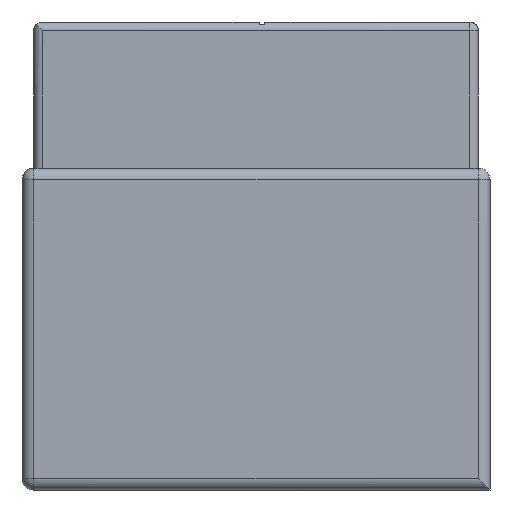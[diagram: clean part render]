
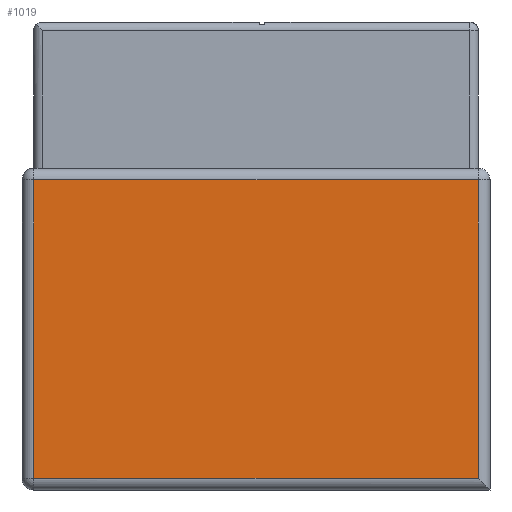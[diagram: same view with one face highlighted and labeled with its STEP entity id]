
A CAD part, front view. The second image highlights one B-rep face of the part: STEP entity #1019.
In plain terms, the highlighted planar face has unit normal (0, -1, 0).
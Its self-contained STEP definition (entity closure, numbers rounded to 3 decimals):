
#14 = VERTEX_POINT ( 'NONE', #266 ) ;
#90 = EDGE_LOOP ( 'NONE', ( #144, #1595, #788, #984 ) ) ;
#120 = DIRECTION ( 'NONE',  ( 0., 1., 0. ) ) ;
#144 = ORIENTED_EDGE ( 'NONE', *, *, #1076, .T. ) ;
#198 = CARTESIAN_POINT ( 'NONE',  ( -3.8, -11.5, 0.2 ) ) ;
#266 = CARTESIAN_POINT ( 'NONE',  ( -3.8, -11.5, 5.3 ) ) ;
#289 = CARTESIAN_POINT ( 'NONE',  ( -3.8, -11.5, 5.5 ) ) ;
#312 = FACE_OUTER_BOUND ( 'NONE', #90, .T. ) ;
#342 = EDGE_CURVE ( 'NONE', #473, #390, #958, .T. ) ;
#387 = EDGE_CURVE ( 'NONE', #390, #14, #1247, .T. ) ;
#390 = VERTEX_POINT ( 'NONE', #1669 ) ;
#429 = DIRECTION ( 'NONE',  ( 1., 0., 0. ) ) ;
#473 = VERTEX_POINT ( 'NONE', #1664 ) ;
#624 = VECTOR ( 'NONE', #1305, 1000. ) ;
#684 = PLANE ( 'NONE',  #1790 ) ;
#692 = VECTOR ( 'NONE', #1380, 1000. ) ;
#767 = VERTEX_POINT ( 'NONE', #198 ) ;
#774 = DIRECTION ( 'NONE',  ( -1., 0., 0. ) ) ;
#788 = ORIENTED_EDGE ( 'NONE', *, *, #342, .T. ) ;
#842 = VECTOR ( 'NONE', #774, 1000. ) ;
#958 = LINE ( 'NONE', #1523, #692 ) ;
#966 = CARTESIAN_POINT ( 'NONE',  ( -4., -11.5, 5.5 ) ) ;
#984 = ORIENTED_EDGE ( 'NONE', *, *, #387, .T. ) ;
#1019 = ADVANCED_FACE ( 'NONE', ( #312 ), #684, .F. ) ;
#1075 = CARTESIAN_POINT ( 'NONE',  ( -4., -11.5, 5.3 ) ) ;
#1076 = EDGE_CURVE ( 'NONE', #14, #767, #1629, .T. ) ;
#1102 = DIRECTION ( 'NONE',  ( 0., 0., 1. ) ) ;
#1159 = CARTESIAN_POINT ( 'NONE',  ( 4., -11.5, 0.2 ) ) ;
#1247 = LINE ( 'NONE', #1075, #842 ) ;
#1264 = LINE ( 'NONE', #1159, #1330 ) ;
#1305 = DIRECTION ( 'NONE',  ( 0., 0., -1. ) ) ;
#1330 = VECTOR ( 'NONE', #429, 1000. ) ;
#1380 = DIRECTION ( 'NONE',  ( 0., 0., 1. ) ) ;
#1523 = CARTESIAN_POINT ( 'NONE',  ( 3.8, -11.5, 5.5 ) ) ;
#1595 = ORIENTED_EDGE ( 'NONE', *, *, #1612, .T. ) ;
#1612 = EDGE_CURVE ( 'NONE', #767, #473, #1264, .T. ) ;
#1629 = LINE ( 'NONE', #289, #624 ) ;
#1664 = CARTESIAN_POINT ( 'NONE',  ( 3.8, -11.5, 0.2 ) ) ;
#1669 = CARTESIAN_POINT ( 'NONE',  ( 3.8, -11.5, 5.3 ) ) ;
#1790 = AXIS2_PLACEMENT_3D ( 'NONE', #966, #120, #1102 ) ;
